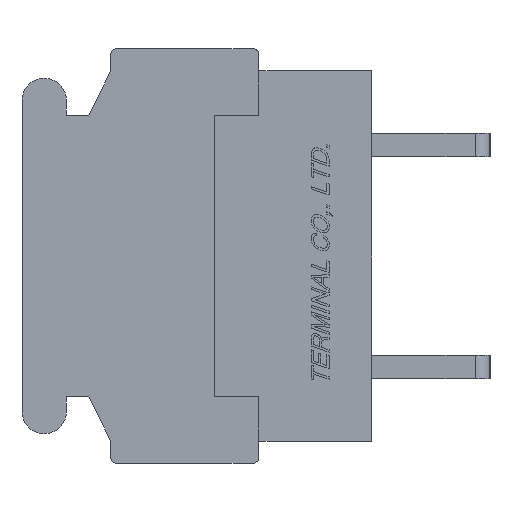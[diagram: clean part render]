
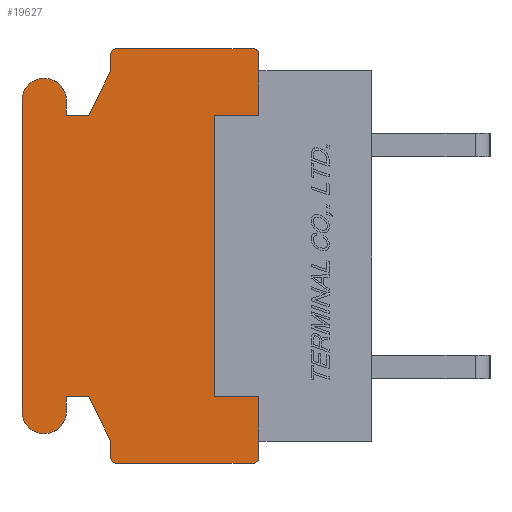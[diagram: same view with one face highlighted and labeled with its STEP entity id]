
A CAD part, left-side view. The second image highlights one B-rep face of the part: STEP entity #19627.
In plain terms, the highlighted planar face has unit normal (-1, 0, 0).
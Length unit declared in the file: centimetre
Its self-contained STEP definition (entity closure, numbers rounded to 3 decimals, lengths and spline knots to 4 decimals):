
#1034=CIRCLE('',#33033,0.02);
#1035=CIRCLE('',#33037,0.02);
#1036=CIRCLE('',#33040,0.02);
#1037=CIRCLE('',#33046,0.075);
#1038=CIRCLE('',#33049,0.075);
#1039=CIRCLE('',#33055,0.02);
#2646=VERTEX_POINT('',#30284);
#2647=VERTEX_POINT('',#30286);
#2648=VERTEX_POINT('',#30290);
#2649=VERTEX_POINT('',#30294);
#2650=VERTEX_POINT('',#30296);
#2651=VERTEX_POINT('',#30300);
#2652=VERTEX_POINT('',#30304);
#2653=VERTEX_POINT('',#30308);
#2654=VERTEX_POINT('',#30312);
#2655=VERTEX_POINT('',#30316);
#2656=VERTEX_POINT('',#30320);
#2657=VERTEX_POINT('',#30324);
#2658=VERTEX_POINT('',#30328);
#2659=VERTEX_POINT('',#30332);
#2660=VERTEX_POINT('',#30336);
#2661=VERTEX_POINT('',#30340);
#2662=VERTEX_POINT('',#30344);
#2663=VERTEX_POINT('',#30348);
#2664=VERTEX_POINT('',#30352);
#2665=VERTEX_POINT('',#30356);
#2666=VERTEX_POINT('',#30362);
#2667=VERTEX_POINT('',#30364);
#2668=VERTEX_POINT('',#30366);
#2669=VERTEX_POINT('',#30368);
#4768=VECTOR('',#24063,1.);
#4770=VECTOR('',#24066,1.);
#4774=VECTOR('',#24075,1.);
#4777=VECTOR('',#24083,1.);
#4779=VECTOR('',#24086,1.);
#4781=VECTOR('',#24089,1.);
#4783=VECTOR('',#24092,1.);
#4786=VECTOR('',#24100,1.);
#4789=VECTOR('',#24108,1.);
#4791=VECTOR('',#24111,1.);
#4793=VECTOR('',#24114,1.);
#4795=VECTOR('',#24117,1.);
#4797=VECTOR('',#24124,1.);
#4798=VECTOR('',#24126,1.);
#4799=VECTOR('',#24127,1.);
#4800=VECTOR('',#24128,1.);
#4801=VECTOR('',#24129,1.);
#4802=VECTOR('',#24130,1.);
#6968=LINE('',#30291,#4768);
#6970=LINE('',#30295,#4770);
#6974=LINE('',#30305,#4774);
#6977=LINE('',#30313,#4777);
#6979=LINE('',#30317,#4779);
#6981=LINE('',#30321,#4781);
#6983=LINE('',#30325,#4783);
#6986=LINE('',#30333,#4786);
#6989=LINE('',#30341,#4789);
#6991=LINE('',#30345,#4791);
#6993=LINE('',#30349,#4793);
#6995=LINE('',#30353,#4795);
#6997=LINE('',#30359,#4797);
#6998=LINE('',#30361,#4798);
#6999=LINE('',#30363,#4799);
#7000=LINE('',#30365,#4800);
#7001=LINE('',#30367,#4801);
#7002=LINE('',#30369,#4802);
#9828=EDGE_CURVE('',#2646,#2647,#1034,.T.);
#9831=EDGE_CURVE('',#2648,#2646,#6968,.T.);
#9833=EDGE_CURVE('',#2649,#2650,#6970,.T.);
#9836=EDGE_CURVE('',#2651,#2649,#1035,.T.);
#9838=EDGE_CURVE('',#2652,#2651,#6974,.T.);
#9840=EDGE_CURVE('',#2653,#2652,#1036,.T.);
#9842=EDGE_CURVE('',#2654,#2653,#6977,.T.);
#9844=EDGE_CURVE('',#2655,#2654,#6979,.T.);
#9846=EDGE_CURVE('',#2656,#2655,#6981,.T.);
#9848=EDGE_CURVE('',#2657,#2656,#6983,.T.);
#9850=EDGE_CURVE('',#2658,#2657,#1037,.T.);
#9852=EDGE_CURVE('',#2659,#2658,#6986,.T.);
#9854=EDGE_CURVE('',#2660,#2659,#1038,.T.);
#9856=EDGE_CURVE('',#2661,#2660,#6989,.T.);
#9858=EDGE_CURVE('',#2662,#2661,#6991,.T.);
#9860=EDGE_CURVE('',#2663,#2662,#6993,.T.);
#9862=EDGE_CURVE('',#2664,#2663,#6995,.T.);
#9864=EDGE_CURVE('',#2665,#2664,#1039,.T.);
#9865=EDGE_CURVE('',#2647,#2665,#6997,.T.);
#9866=EDGE_CURVE('',#2666,#2650,#6998,.T.);
#9867=EDGE_CURVE('',#2648,#2667,#6999,.T.);
#9868=EDGE_CURVE('',#2667,#2668,#7000,.T.);
#9869=EDGE_CURVE('',#2668,#2669,#7001,.T.);
#9870=EDGE_CURVE('',#2669,#2666,#7002,.T.);
#15202=ORIENTED_EDGE('',*,*,#9866,.T.);
#15203=ORIENTED_EDGE('',*,*,#9833,.F.);
#15204=ORIENTED_EDGE('',*,*,#9836,.F.);
#15205=ORIENTED_EDGE('',*,*,#9838,.F.);
#15206=ORIENTED_EDGE('',*,*,#9840,.F.);
#15207=ORIENTED_EDGE('',*,*,#9842,.F.);
#15208=ORIENTED_EDGE('',*,*,#9844,.F.);
#15209=ORIENTED_EDGE('',*,*,#9846,.F.);
#15210=ORIENTED_EDGE('',*,*,#9848,.F.);
#15211=ORIENTED_EDGE('',*,*,#9850,.F.);
#15212=ORIENTED_EDGE('',*,*,#9852,.F.);
#15213=ORIENTED_EDGE('',*,*,#9854,.F.);
#15214=ORIENTED_EDGE('',*,*,#9856,.F.);
#15215=ORIENTED_EDGE('',*,*,#9858,.F.);
#15216=ORIENTED_EDGE('',*,*,#9860,.F.);
#15217=ORIENTED_EDGE('',*,*,#9862,.F.);
#15218=ORIENTED_EDGE('',*,*,#9864,.F.);
#15219=ORIENTED_EDGE('',*,*,#9865,.F.);
#15220=ORIENTED_EDGE('',*,*,#9828,.F.);
#15221=ORIENTED_EDGE('',*,*,#9831,.F.);
#15222=ORIENTED_EDGE('',*,*,#9867,.T.);
#15223=ORIENTED_EDGE('',*,*,#9868,.T.);
#15224=ORIENTED_EDGE('',*,*,#9869,.T.);
#15225=ORIENTED_EDGE('',*,*,#9870,.T.);
#17293=EDGE_LOOP('',(#15202,#15203,#15204,#15205,#15206,#15207,#15208,#15209,
#15210,#15211,#15212,#15213,#15214,#15215,#15216,#15217,#15218,#15219,#15220,
#15221,#15222,#15223,#15224,#15225));
#18491=FACE_BOUND('',#17293,.T.);
#19627=ADVANCED_FACE('',(#18491),#20459,.F.);
#20459=PLANE('',#33057);
#24058=DIRECTION('',(1.,0.,0.));
#24059=DIRECTION('',(0.,0.,-0.02));
#24063=DIRECTION('',(0.,0.,-1.));
#24066=DIRECTION('',(0.,0.,-1.));
#24071=DIRECTION('',(1.,0.,0.));
#24072=DIRECTION('',(0.,0.,-0.02));
#24075=DIRECTION('',(0.,-1.,0.));
#24079=DIRECTION('',(1.,0.,0.));
#24080=DIRECTION('',(0.,0.,-0.02));
#24083=DIRECTION('',(0.,0.,1.));
#24086=DIRECTION('',(0.,-0.447,0.894));
#24089=DIRECTION('',(0.,-1.,0.));
#24092=DIRECTION('',(0.,0.,-1.));
#24096=DIRECTION('',(1.,0.,0.));
#24097=DIRECTION('',(0.,0.,-0.075));
#24100=DIRECTION('',(0.,0.,1.));
#24104=DIRECTION('',(1.,0.,0.));
#24105=DIRECTION('',(0.,0.,-0.075));
#24108=DIRECTION('',(0.,0.,-1.));
#24111=DIRECTION('',(0.,1.,0.));
#24114=DIRECTION('',(0.,0.447,0.894));
#24117=DIRECTION('',(0.,0.,1.));
#24121=DIRECTION('',(1.,0.,0.));
#24122=DIRECTION('',(0.,0.,-0.02));
#24124=DIRECTION('',(0.,1.,0.));
#24125=DIRECTION('',(1.,0.,0.));
#24126=DIRECTION('',(0.,0.,1.));
#24127=DIRECTION('',(0.,0.,1.));
#24128=DIRECTION('',(0.,1.,0.));
#24129=DIRECTION('',(0.,0.,1.));
#24130=DIRECTION('',(0.,-1.,0.));
#30284=CARTESIAN_POINT('',(-0.762,0.38,-0.68));
#30285=CARTESIAN_POINT('',(-0.762,0.4,-0.68));
#30286=CARTESIAN_POINT('',(-0.762,0.4,-0.7));
#30290=CARTESIAN_POINT('',(-0.762,0.38,-0.625));
#30291=CARTESIAN_POINT('',(-0.762,0.38,-0.625));
#30294=CARTESIAN_POINT('',(-0.762,0.38,0.68));
#30295=CARTESIAN_POINT('',(-0.762,0.38,0.68));
#30296=CARTESIAN_POINT('',(-0.762,0.38,0.625));
#30300=CARTESIAN_POINT('',(-0.762,0.4,0.7));
#30301=CARTESIAN_POINT('',(-0.762,0.4,0.68));
#30304=CARTESIAN_POINT('',(-0.762,0.86,0.7));
#30305=CARTESIAN_POINT('',(-0.762,0.86,0.7));
#30308=CARTESIAN_POINT('',(-0.762,0.88,0.68));
#30309=CARTESIAN_POINT('',(-0.762,0.86,0.68));
#30312=CARTESIAN_POINT('',(-0.762,0.88,0.625));
#30313=CARTESIAN_POINT('',(-0.762,0.88,0.625));
#30316=CARTESIAN_POINT('',(-0.762,0.955,0.475));
#30317=CARTESIAN_POINT('',(-0.762,0.955,0.475));
#30320=CARTESIAN_POINT('',(-0.762,1.03,0.475));
#30321=CARTESIAN_POINT('',(-0.762,1.03,0.475));
#30324=CARTESIAN_POINT('',(-0.762,1.03,0.525));
#30325=CARTESIAN_POINT('',(-0.762,1.03,0.525));
#30328=CARTESIAN_POINT('',(-0.762,1.18,0.525));
#30329=CARTESIAN_POINT('',(-0.762,1.105,0.525));
#30332=CARTESIAN_POINT('',(-0.762,1.18,-0.525));
#30333=CARTESIAN_POINT('',(-0.762,1.18,-0.525));
#30336=CARTESIAN_POINT('',(-0.762,1.03,-0.525));
#30337=CARTESIAN_POINT('',(-0.762,1.105,-0.525));
#30340=CARTESIAN_POINT('',(-0.762,1.03,-0.475));
#30341=CARTESIAN_POINT('',(-0.762,1.03,-0.475));
#30344=CARTESIAN_POINT('',(-0.762,0.955,-0.475));
#30345=CARTESIAN_POINT('',(-0.762,0.955,-0.475));
#30348=CARTESIAN_POINT('',(-0.762,0.88,-0.625));
#30349=CARTESIAN_POINT('',(-0.762,0.88,-0.625));
#30352=CARTESIAN_POINT('',(-0.762,0.88,-0.68));
#30353=CARTESIAN_POINT('',(-0.762,0.88,-0.68));
#30356=CARTESIAN_POINT('',(-0.762,0.86,-0.7));
#30357=CARTESIAN_POINT('',(-0.762,0.86,-0.68));
#30359=CARTESIAN_POINT('',(-0.762,0.4,-0.7));
#30360=CARTESIAN_POINT('',(-0.762,0.6059,0.));
#30361=CARTESIAN_POINT('',(-0.762,0.38,0.475));
#30362=CARTESIAN_POINT('',(-0.762,0.38,0.475));
#30363=CARTESIAN_POINT('',(-0.762,0.38,-0.625));
#30364=CARTESIAN_POINT('',(-0.762,0.38,-0.475));
#30365=CARTESIAN_POINT('',(-0.762,0.38,-0.475));
#30366=CARTESIAN_POINT('',(-0.762,0.53,-0.475));
#30367=CARTESIAN_POINT('',(-0.762,0.53,-0.475));
#30368=CARTESIAN_POINT('',(-0.762,0.53,0.475));
#30369=CARTESIAN_POINT('',(-0.762,0.53,0.475));
#33033=AXIS2_PLACEMENT_3D('',#30285,#24058,#24059);
#33037=AXIS2_PLACEMENT_3D('',#30301,#24071,#24072);
#33040=AXIS2_PLACEMENT_3D('',#30309,#24079,#24080);
#33046=AXIS2_PLACEMENT_3D('',#30329,#24096,#24097);
#33049=AXIS2_PLACEMENT_3D('',#30337,#24104,#24105);
#33055=AXIS2_PLACEMENT_3D('',#30357,#24121,#24122);
#33057=AXIS2_PLACEMENT_3D('',#30360,#24125,$);
